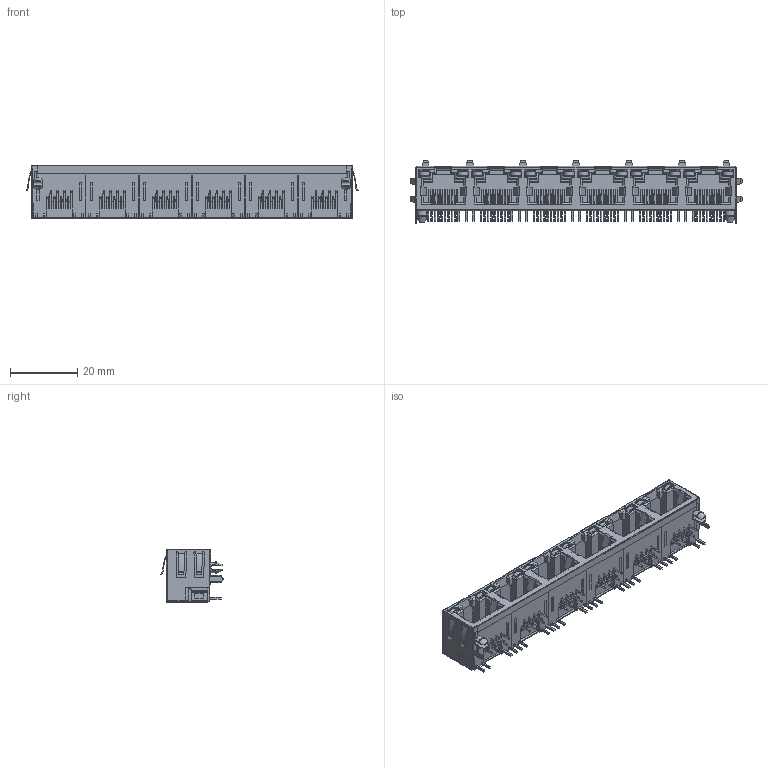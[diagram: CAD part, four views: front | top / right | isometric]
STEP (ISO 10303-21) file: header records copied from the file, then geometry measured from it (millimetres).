
FILE_DESCRIPTION((''),'2;1');
FILE_NAME('56-16-006_ASM_1_ASM_1_ASM','2020-04-28T18:37:25',('Administrator'),(''),'CREO PARAMETRIC BY PTC INC, 2018400','CREO PARAMETRIC BY PTC INC, 2018400','');
FILE_SCHEMA(('CONFIG_CONTROL_DESIGN'));
Products named in the file (3): DGKYD561688DB1A1DY1006_1_1; 56-16-006T_1_1; 56-16-006_ASM_1_ASM_1_ASM
Assembly tree (2 placements, depth 2):
  56-16-006_ASM_1_ASM_1_ASM
    DGKYD561688DB1A1DY1006_1_1
    56-16-006T_1_1
Bounding box: 98.59 x 18.46 x 15.95 mm (x, y, z)
Volume: 10418.4 mm3; surface area: 20918.4 mm2
Topology: 2 solids, 2 shells, 3261 faces, 9151 edges, 5898 vertices
Faces by surface type: plane 2202, cylinder 708, torus 220, bspline 123, cone 8
Entity records: 111352 total; most frequent: CARTESIAN_POINT 27575, ORIENTED_EDGE 18278, DIRECTION 16415, EDGE_CURVE 9139, VECTOR 6457, LINE 6457, VERTEX_POINT 5898, AXIS2_PLACEMENT_3D 4979
